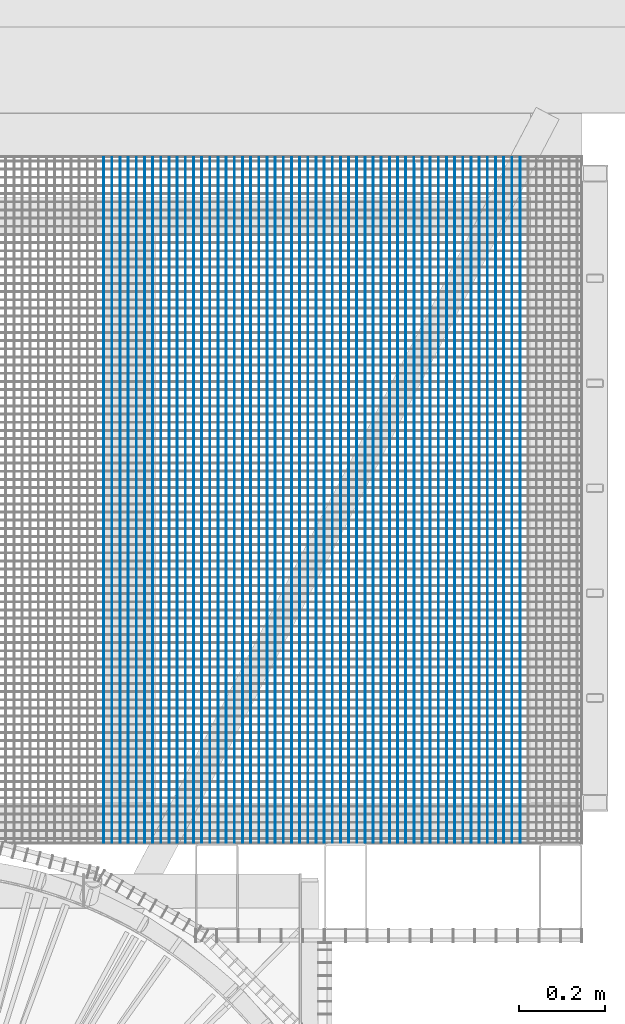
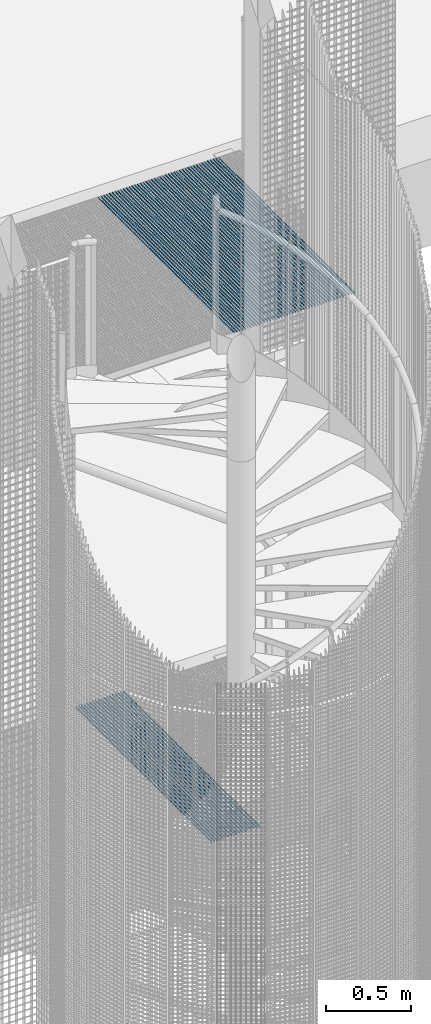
# One storey, part 88 of 1148: 62 beams, 2 elements without a shape of their own.
"""IFC2X3 building model written with IfcOpenShell, lengths in millimetres."""

from ifc_helpers import new_model, si_unit, frame, origin_with_axes, origin_2d_with_axis, place, context, subcontext, project, spatial, rectangle, extrude, material, type_object, element, aggregate, save


model = new_model("IFC2X3")

# Units and contexts
model_context = context("Model", 3, precision=1e-05, world=origin_with_axes())
body_context = subcontext(model_context, "Body", "Model", "MODEL_VIEW")
ifc_project = project(units=[si_unit("LENGTHUNIT", "METRE", prefix="MILLI"), si_unit("AREAUNIT", "SQUARE_METRE"), si_unit("VOLUMEUNIT", "CUBIC_METRE"), si_unit("MASSUNIT", "GRAM", prefix="KILO"), si_unit("TIMEUNIT", "SECOND"), si_unit("PLANEANGLEUNIT", "RADIAN"), si_unit("SOLIDANGLEUNIT", "STERADIAN"), si_unit("THERMODYNAMICTEMPERATUREUNIT", "DEGREE_CELSIUS"), si_unit("LUMINOUSINTENSITYUNIT", "LUMEN")], contexts=[model_context])

# Site, building, storey
site_placement = place(None, origin_with_axes())
site = spatial("IfcSite", under=ifc_project, at=site_placement, Name="Undefined", CompositionType="ELEMENT")
building_placement = place(site_placement, origin_with_axes())
building = spatial("IfcBuilding", under=site, at=building_placement, Name="Undefined", CompositionType="ELEMENT")
storey_placement = place(building_placement, origin_with_axes())
storey = spatial("IfcBuildingStorey", under=building, at=storey_placement, Name="Undefined", CompositionType="ELEMENT", Elevation=0.0)

# Assembly, beams
assembly_1_placement = place(storey_placement, origin_with_axes())
assembly_1 = element("IfcElementAssembly", 1, at=assembly_1_placement, inside=storey, Name="BORDURE", AssemblyPlace="NOTDEFINED", PredefinedType="NOTDEFINED")
ifc_material = material(Name="STEEL/S235JR")
beam_type = type_object("IfcBeamType", Name="PL2*10", PredefinedType="NOTDEFINED")
beam_1_placement = place(assembly_1_placement, frame((589.075424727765, 1102.00521807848, 10085.0), z_axis=(0.0, 0.0, 1.0), x_axis=(-4.50599999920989e-06, 0.999999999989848, 0.0)))
beam_1 = element("IfcBeam", 2, at=beam_1_placement, type_object=beam_type, material=ifc_material, Name="ENTRETOISE", context=body_context, shape_type="SweptSolid", body=[
    extrude(rectangle(XDim=2.0, YDim=10.0, at=origin_2d_with_axis()), frame((1596.0000000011, -1.35186458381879e-18, -7.27595761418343e-12), z_axis=(-1.0, 0.0, 0.0), x_axis=(0.0, -1.0, 0.0)), (0.0, 0.0, 1.0), 1596.0),
])
beam_2_placement = place(assembly_1_placement, frame((608.075424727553, 1102.00531159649, 10085.0), z_axis=(0.0, 0.0, 1.0), x_axis=(-4.50599999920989e-06, 0.999999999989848, 0.0)))
beam_2 = element("IfcBeam", 3, at=beam_2_placement, type_object=beam_type, material=ifc_material, Name="ENTRETOISE", context=body_context, shape_type="SweptSolid", body=[
    extrude(rectangle(XDim=2.0, YDim=10.0, at=origin_2d_with_axis()), frame((1596.0000000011, -1.35186458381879e-18, -7.27595761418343e-12), z_axis=(-1.0, 0.0, 0.0), x_axis=(0.0, -1.0, 0.0)), (0.0, 0.0, 1.0), 1596.0),
])
beam_3_placement = place(assembly_1_placement, frame((627.075424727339, 1102.0054051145, 10085.0), z_axis=(0.0, 0.0, 1.0), x_axis=(-4.50599999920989e-06, 0.999999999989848, 0.0)))
beam_3 = element("IfcBeam", 4, at=beam_3_placement, type_object=beam_type, material=ifc_material, Name="ENTRETOISE", context=body_context, shape_type="SweptSolid", body=[
    extrude(rectangle(XDim=2.0, YDim=10.0, at=origin_2d_with_axis()), frame((1596.0000000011, -1.35186458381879e-18, -7.27595761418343e-12), z_axis=(-1.0, 0.0, 0.0), x_axis=(0.0, -1.0, 0.0)), (0.0, 0.0, 1.0), 1596.0),
])
beam_4_placement = place(assembly_1_placement, frame((646.075424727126, 1102.0054986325, 10085.0), z_axis=(0.0, 0.0, 1.0), x_axis=(-4.50599999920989e-06, 0.999999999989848, 0.0)))
beam_4 = element("IfcBeam", 5, at=beam_4_placement, type_object=beam_type, material=ifc_material, Name="ENTRETOISE", context=body_context, shape_type="SweptSolid", body=[
    extrude(rectangle(XDim=2.0, YDim=10.0, at=origin_2d_with_axis()), frame((1596.0000000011, -1.35186458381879e-18, -7.27595761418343e-12), z_axis=(-1.0, 0.0, 0.0), x_axis=(0.0, -1.0, 0.0)), (0.0, 0.0, 1.0), 1596.0),
])
beam_5_placement = place(assembly_1_placement, frame((665.075424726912, 1102.00559215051, 10085.0), z_axis=(0.0, 0.0, 1.0), x_axis=(-4.50599999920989e-06, 0.999999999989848, 0.0)))
beam_5 = element("IfcBeam", 6, at=beam_5_placement, type_object=beam_type, material=ifc_material, Name="ENTRETOISE", context=body_context, shape_type="SweptSolid", body=[
    extrude(rectangle(XDim=2.0, YDim=10.0, at=origin_2d_with_axis()), frame((1596.0000000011, -1.35186458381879e-18, -7.27595761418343e-12), z_axis=(-1.0, 0.0, 0.0), x_axis=(0.0, -1.0, 0.0)), (0.0, 0.0, 1.0), 1596.0),
])
beam_6_placement = place(assembly_1_placement, frame((684.0754247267, 1102.00568566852, 10085.0), z_axis=(0.0, 0.0, 1.0), x_axis=(-4.50599999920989e-06, 0.999999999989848, 0.0)))
beam_6 = element("IfcBeam", 7, at=beam_6_placement, type_object=beam_type, material=ifc_material, Name="ENTRETOISE", context=body_context, shape_type="SweptSolid", body=[
    extrude(rectangle(XDim=2.0, YDim=10.0, at=origin_2d_with_axis()), frame((1596.0000000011, -1.35186458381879e-18, -7.27595761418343e-12), z_axis=(-1.0, 0.0, 0.0), x_axis=(0.0, -1.0, 0.0)), (0.0, 0.0, 1.0), 1596.0),
])
beam_7_placement = place(assembly_1_placement, frame((703.075424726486, 1102.00577918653, 10085.0), z_axis=(0.0, 0.0, 1.0), x_axis=(-4.50599999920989e-06, 0.999999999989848, 0.0)))
beam_7 = element("IfcBeam", 8, at=beam_7_placement, type_object=beam_type, material=ifc_material, Name="ENTRETOISE", context=body_context, shape_type="SweptSolid", body=[
    extrude(rectangle(XDim=2.0, YDim=10.0, at=origin_2d_with_axis()), frame((1596.0000000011, -1.35186458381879e-18, -7.27595761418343e-12), z_axis=(-1.0, 0.0, 0.0), x_axis=(0.0, -1.0, 0.0)), (0.0, 0.0, 1.0), 1596.0),
])
beam_8_placement = place(assembly_1_placement, frame((722.075424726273, 1102.00587270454, 10085.0), z_axis=(0.0, 0.0, 1.0), x_axis=(-4.50599999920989e-06, 0.999999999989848, 0.0)))
beam_8 = element("IfcBeam", 9, at=beam_8_placement, type_object=beam_type, material=ifc_material, Name="ENTRETOISE", context=body_context, shape_type="SweptSolid", body=[
    extrude(rectangle(XDim=2.0, YDim=10.0, at=origin_2d_with_axis()), frame((1596.0000000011, -1.35186458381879e-18, -7.27595761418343e-12), z_axis=(-1.0, 0.0, 0.0), x_axis=(0.0, -1.0, 0.0)), (0.0, 0.0, 1.0), 1596.0),
])
beam_9_placement = place(assembly_1_placement, frame((741.075424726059, 1102.00596622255, 10085.0), z_axis=(0.0, 0.0, 1.0), x_axis=(-4.50599999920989e-06, 0.999999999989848, 0.0)))
beam_9 = element("IfcBeam", 10, at=beam_9_placement, type_object=beam_type, material=ifc_material, Name="ENTRETOISE", context=body_context, shape_type="SweptSolid", body=[
    extrude(rectangle(XDim=2.0, YDim=10.0, at=origin_2d_with_axis()), frame((1596.0000000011, -1.35186458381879e-18, -7.27595761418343e-12), z_axis=(-1.0, 0.0, 0.0), x_axis=(0.0, -1.0, 0.0)), (0.0, 0.0, 1.0), 1596.0),
])
beam_10_placement = place(assembly_1_placement, frame((760.075424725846, 1102.00605974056, 10085.0), z_axis=(0.0, 0.0, 1.0), x_axis=(-4.50599999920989e-06, 0.999999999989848, 0.0)))
beam_10 = element("IfcBeam", 11, at=beam_10_placement, type_object=beam_type, material=ifc_material, Name="ENTRETOISE", context=body_context, shape_type="SweptSolid", body=[
    extrude(rectangle(XDim=2.0, YDim=10.0, at=origin_2d_with_axis()), frame((1596.0000000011, -1.35186458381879e-18, -7.27595761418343e-12), z_axis=(-1.0, 0.0, 0.0), x_axis=(0.0, -1.0, 0.0)), (0.0, 0.0, 1.0), 1596.0),
])
beam_11_placement = place(assembly_1_placement, frame((779.075424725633, 1102.00615325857, 10085.0), z_axis=(0.0, 0.0, 1.0), x_axis=(-4.50599999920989e-06, 0.999999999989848, 0.0)))
beam_11 = element("IfcBeam", 12, at=beam_11_placement, type_object=beam_type, material=ifc_material, Name="ENTRETOISE", context=body_context, shape_type="SweptSolid", body=[
    extrude(rectangle(XDim=2.0, YDim=10.0, at=origin_2d_with_axis()), frame((1596.0000000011, -1.35186458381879e-18, -7.27595761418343e-12), z_axis=(-1.0, 0.0, 0.0), x_axis=(0.0, -1.0, 0.0)), (0.0, 0.0, 1.0), 1596.0),
])
beam_12_placement = place(assembly_1_placement, frame((798.07542472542, 1102.00624677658, 10085.0), z_axis=(0.0, 0.0, 1.0), x_axis=(-4.50599999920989e-06, 0.999999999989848, 0.0)))
beam_12 = element("IfcBeam", 13, at=beam_12_placement, type_object=beam_type, material=ifc_material, Name="ENTRETOISE", context=body_context, shape_type="SweptSolid", body=[
    extrude(rectangle(XDim=2.0, YDim=10.0, at=origin_2d_with_axis()), frame((1596.0000000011, -1.35186458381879e-18, -7.27595761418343e-12), z_axis=(-1.0, 0.0, 0.0), x_axis=(0.0, -1.0, 0.0)), (0.0, 0.0, 1.0), 1596.0),
])
beam_13_placement = place(assembly_1_placement, frame((817.075424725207, 1102.00634029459, 10085.0), z_axis=(0.0, 0.0, 1.0), x_axis=(-4.50599999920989e-06, 0.999999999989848, 0.0)))
beam_13 = element("IfcBeam", 14, at=beam_13_placement, type_object=beam_type, material=ifc_material, Name="ENTRETOISE", context=body_context, shape_type="SweptSolid", body=[
    extrude(rectangle(XDim=2.0, YDim=10.0, at=origin_2d_with_axis()), frame((1596.0000000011, -1.35186458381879e-18, -7.27595761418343e-12), z_axis=(-1.0, 0.0, 0.0), x_axis=(0.0, -1.0, 0.0)), (0.0, 0.0, 1.0), 1596.0),
])
beam_14_placement = place(assembly_1_placement, frame((836.075424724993, 1102.00643381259, 10085.0), z_axis=(0.0, 0.0, 1.0), x_axis=(-4.50599999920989e-06, 0.999999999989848, 0.0)))
beam_14 = element("IfcBeam", 15, at=beam_14_placement, type_object=beam_type, material=ifc_material, Name="ENTRETOISE", context=body_context, shape_type="SweptSolid", body=[
    extrude(rectangle(XDim=2.0, YDim=10.0, at=origin_2d_with_axis()), frame((1596.0000000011, -1.35186458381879e-18, -7.27595761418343e-12), z_axis=(-1.0, 0.0, 0.0), x_axis=(0.0, -1.0, 0.0)), (0.0, 0.0, 1.0), 1596.0),
])
beam_15_placement = place(assembly_1_placement, frame((855.075424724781, 1102.0065273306, 10085.0), z_axis=(0.0, 0.0, 1.0), x_axis=(-4.50599999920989e-06, 0.999999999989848, 0.0)))
beam_15 = element("IfcBeam", 16, at=beam_15_placement, type_object=beam_type, material=ifc_material, Name="ENTRETOISE", context=body_context, shape_type="SweptSolid", body=[
    extrude(rectangle(XDim=2.0, YDim=10.0, at=origin_2d_with_axis()), frame((1596.0000000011, -1.35186458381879e-18, -7.27595761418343e-12), z_axis=(-1.0, 0.0, 0.0), x_axis=(0.0, -1.0, 0.0)), (0.0, 0.0, 1.0), 1596.0),
])
beam_16_placement = place(assembly_1_placement, frame((874.075424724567, 1102.00662084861, 10085.0), z_axis=(0.0, 0.0, 1.0), x_axis=(-4.50599999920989e-06, 0.999999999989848, 0.0)))
beam_16 = element("IfcBeam", 17, at=beam_16_placement, type_object=beam_type, material=ifc_material, Name="ENTRETOISE", context=body_context, shape_type="SweptSolid", body=[
    extrude(rectangle(XDim=2.0, YDim=10.0, at=origin_2d_with_axis()), frame((1596.0000000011, -1.35186458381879e-18, -7.27595761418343e-12), z_axis=(-1.0, 0.0, 0.0), x_axis=(0.0, -1.0, 0.0)), (0.0, 0.0, 1.0), 1596.0),
])
beam_17_placement = place(assembly_1_placement, frame((893.075424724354, 1102.00671436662, 10085.0), z_axis=(0.0, 0.0, 1.0), x_axis=(-4.50599999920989e-06, 0.999999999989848, 0.0)))
beam_17 = element("IfcBeam", 18, at=beam_17_placement, type_object=beam_type, material=ifc_material, Name="ENTRETOISE", context=body_context, shape_type="SweptSolid", body=[
    extrude(rectangle(XDim=2.0, YDim=10.0, at=origin_2d_with_axis()), frame((1596.0000000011, -1.35186458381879e-18, -7.27595761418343e-12), z_axis=(-1.0, 0.0, 0.0), x_axis=(0.0, -1.0, 0.0)), (0.0, 0.0, 1.0), 1596.0),
])
beam_18_placement = place(assembly_1_placement, frame((912.07542472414, 1102.00680788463, 10085.0), z_axis=(0.0, 0.0, 1.0), x_axis=(-4.50599999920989e-06, 0.999999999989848, 0.0)))
beam_18 = element("IfcBeam", 19, at=beam_18_placement, type_object=beam_type, material=ifc_material, Name="ENTRETOISE", context=body_context, shape_type="SweptSolid", body=[
    extrude(rectangle(XDim=2.0, YDim=10.0, at=origin_2d_with_axis()), frame((1596.0000000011, -1.35186458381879e-18, -7.27595761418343e-12), z_axis=(-1.0, 0.0, 0.0), x_axis=(0.0, -1.0, 0.0)), (0.0, 0.0, 1.0), 1596.0),
])
beam_19_placement = place(assembly_1_placement, frame((931.075424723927, 1102.00690140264, 10085.0), z_axis=(0.0, 0.0, 1.0), x_axis=(-4.50599999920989e-06, 0.999999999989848, 0.0)))
beam_19 = element("IfcBeam", 20, at=beam_19_placement, type_object=beam_type, material=ifc_material, Name="ENTRETOISE", context=body_context, shape_type="SweptSolid", body=[
    extrude(rectangle(XDim=2.0, YDim=10.0, at=origin_2d_with_axis()), frame((1596.0000000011, -1.35186458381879e-18, -7.27595761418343e-12), z_axis=(-1.0, 0.0, 0.0), x_axis=(0.0, -1.0, 0.0)), (0.0, 0.0, 1.0), 1596.0),
])
beam_20_placement = place(assembly_1_placement, frame((950.075424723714, 1102.00699492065, 10085.0), z_axis=(0.0, 0.0, 1.0), x_axis=(-4.50599999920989e-06, 0.999999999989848, 0.0)))
beam_20 = element("IfcBeam", 21, at=beam_20_placement, type_object=beam_type, material=ifc_material, Name="ENTRETOISE", context=body_context, shape_type="SweptSolid", body=[
    extrude(rectangle(XDim=2.0, YDim=10.0, at=origin_2d_with_axis()), frame((1596.0000000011, -1.35186458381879e-18, -7.27595761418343e-12), z_axis=(-1.0, 0.0, 0.0), x_axis=(0.0, -1.0, 0.0)), (0.0, 0.0, 1.0), 1596.0),
])
beam_21_placement = place(assembly_1_placement, frame((969.0754247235, 1102.00708843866, 10085.0), z_axis=(0.0, 0.0, 1.0), x_axis=(-4.50599999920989e-06, 0.999999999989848, 0.0)))
beam_21 = element("IfcBeam", 22, at=beam_21_placement, type_object=beam_type, material=ifc_material, Name="ENTRETOISE", context=body_context, shape_type="SweptSolid", body=[
    extrude(rectangle(XDim=2.0, YDim=10.0, at=origin_2d_with_axis()), frame((1596.0000000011, -1.35186458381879e-18, -7.27595761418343e-12), z_axis=(-1.0, 0.0, 0.0), x_axis=(0.0, -1.0, 0.0)), (0.0, 0.0, 1.0), 1596.0),
])
beam_22_placement = place(assembly_1_placement, frame((988.075424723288, 1102.00718195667, 10085.0), z_axis=(0.0, 0.0, 1.0), x_axis=(-4.50599999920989e-06, 0.999999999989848, 0.0)))
beam_22 = element("IfcBeam", 23, at=beam_22_placement, type_object=beam_type, material=ifc_material, Name="ENTRETOISE", context=body_context, shape_type="SweptSolid", body=[
    extrude(rectangle(XDim=2.0, YDim=10.0, at=origin_2d_with_axis()), frame((1596.0000000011, -1.35186458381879e-18, -7.27595761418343e-12), z_axis=(-1.0, 0.0, 0.0), x_axis=(0.0, -1.0, 0.0)), (0.0, 0.0, 1.0), 1596.0),
])
beam_23_placement = place(assembly_1_placement, frame((1007.07542472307, 1102.00727547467, 10085.0), z_axis=(0.0, 0.0, 1.0), x_axis=(-4.50599999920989e-06, 0.999999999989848, 0.0)))
beam_23 = element("IfcBeam", 24, at=beam_23_placement, type_object=beam_type, material=ifc_material, Name="ENTRETOISE", context=body_context, shape_type="SweptSolid", body=[
    extrude(rectangle(XDim=2.0, YDim=10.0, at=origin_2d_with_axis()), frame((1596.0000000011, -1.35186458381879e-18, -7.27595761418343e-12), z_axis=(-1.0, 0.0, 0.0), x_axis=(0.0, -1.0, 0.0)), (0.0, 0.0, 1.0), 1596.0),
])
beam_24_placement = place(assembly_1_placement, frame((1026.07542472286, 1102.00736899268, 10085.0), z_axis=(0.0, 0.0, 1.0), x_axis=(-4.50599999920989e-06, 0.999999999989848, 0.0)))
beam_24 = element("IfcBeam", 25, at=beam_24_placement, type_object=beam_type, material=ifc_material, Name="ENTRETOISE", context=body_context, shape_type="SweptSolid", body=[
    extrude(rectangle(XDim=2.0, YDim=10.0, at=origin_2d_with_axis()), frame((1596.0000000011, -1.35186458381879e-18, -7.27595761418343e-12), z_axis=(-1.0, 0.0, 0.0), x_axis=(0.0, -1.0, 0.0)), (0.0, 0.0, 1.0), 1596.0),
])
beam_25_placement = place(assembly_1_placement, frame((1045.07542472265, 1102.00746251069, 10085.0), z_axis=(0.0, 0.0, 1.0), x_axis=(-4.50599999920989e-06, 0.999999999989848, 0.0)))
beam_25 = element("IfcBeam", 26, at=beam_25_placement, type_object=beam_type, material=ifc_material, Name="ENTRETOISE", context=body_context, shape_type="SweptSolid", body=[
    extrude(rectangle(XDim=2.0, YDim=10.0, at=origin_2d_with_axis()), frame((1596.0000000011, -1.35186458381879e-18, -7.27595761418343e-12), z_axis=(-1.0, 0.0, 0.0), x_axis=(0.0, -1.0, 0.0)), (0.0, 0.0, 1.0), 1596.0),
])
beam_26_placement = place(assembly_1_placement, frame((1064.07542472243, 1102.0075560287, 10085.0), z_axis=(0.0, 0.0, 1.0), x_axis=(-4.50599999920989e-06, 0.999999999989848, 0.0)))
beam_26 = element("IfcBeam", 27, at=beam_26_placement, type_object=beam_type, material=ifc_material, Name="ENTRETOISE", context=body_context, shape_type="SweptSolid", body=[
    extrude(rectangle(XDim=2.0, YDim=10.0, at=origin_2d_with_axis()), frame((1596.0000000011, -1.35186458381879e-18, -7.27595761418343e-12), z_axis=(-1.0, 0.0, 0.0), x_axis=(0.0, -1.0, 0.0)), (0.0, 0.0, 1.0), 1596.0),
])
beam_27_placement = place(assembly_1_placement, frame((1083.07542472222, 1102.00764954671, 10085.0), z_axis=(0.0, 0.0, 1.0), x_axis=(-4.50599999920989e-06, 0.999999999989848, 0.0)))
beam_27 = element("IfcBeam", 28, at=beam_27_placement, type_object=beam_type, material=ifc_material, Name="ENTRETOISE", context=body_context, shape_type="SweptSolid", body=[
    extrude(rectangle(XDim=2.0, YDim=10.0, at=origin_2d_with_axis()), frame((1596.0000000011, -1.35186458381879e-18, -7.27595761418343e-12), z_axis=(-1.0, 0.0, 0.0), x_axis=(0.0, -1.0, 0.0)), (0.0, 0.0, 1.0), 1596.0),
])
beam_28_placement = place(assembly_1_placement, frame((1102.07542472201, 1102.00774306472, 10085.0), z_axis=(0.0, 0.0, 1.0), x_axis=(-4.50599999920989e-06, 0.999999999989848, 0.0)))
beam_28 = element("IfcBeam", 29, at=beam_28_placement, type_object=beam_type, material=ifc_material, Name="ENTRETOISE", context=body_context, shape_type="SweptSolid", body=[
    extrude(rectangle(XDim=2.0, YDim=10.0, at=origin_2d_with_axis()), frame((1596.0000000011, -1.35186458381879e-18, -7.27595761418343e-12), z_axis=(-1.0, 0.0, 0.0), x_axis=(0.0, -1.0, 0.0)), (0.0, 0.0, 1.0), 1596.0),
])
beam_29_placement = place(assembly_1_placement, frame((1121.07542472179, 1102.00783658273, 10085.0), z_axis=(0.0, 0.0, 1.0), x_axis=(-4.50599999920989e-06, 0.999999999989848, 0.0)))
beam_29 = element("IfcBeam", 30, at=beam_29_placement, type_object=beam_type, material=ifc_material, Name="ENTRETOISE", context=body_context, shape_type="SweptSolid", body=[
    extrude(rectangle(XDim=2.0, YDim=10.0, at=origin_2d_with_axis()), frame((1596.0000000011, -1.35186458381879e-18, -7.27595761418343e-12), z_axis=(-1.0, 0.0, 0.0), x_axis=(0.0, -1.0, 0.0)), (0.0, 0.0, 1.0), 1596.0),
])
beam_30_placement = place(assembly_1_placement, frame((1140.07542472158, 1102.00793010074, 10085.0), z_axis=(0.0, 0.0, 1.0), x_axis=(-4.50599999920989e-06, 0.999999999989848, 0.0)))
beam_30 = element("IfcBeam", 31, at=beam_30_placement, type_object=beam_type, material=ifc_material, Name="ENTRETOISE", context=body_context, shape_type="SweptSolid", body=[
    extrude(rectangle(XDim=2.0, YDim=10.0, at=origin_2d_with_axis()), frame((1596.0000000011, -1.35186458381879e-18, -7.27595761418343e-12), z_axis=(-1.0, 0.0, 0.0), x_axis=(0.0, -1.0, 0.0)), (0.0, 0.0, 1.0), 1596.0),
])
beam_31_placement = place(assembly_1_placement, frame((1159.07542472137, 1102.00802361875, 10085.0), z_axis=(0.0, 0.0, 1.0), x_axis=(-4.50599999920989e-06, 0.999999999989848, 0.0)))
beam_31 = element("IfcBeam", 32, at=beam_31_placement, type_object=beam_type, material=ifc_material, Name="ENTRETOISE", context=body_context, shape_type="SweptSolid", body=[
    extrude(rectangle(XDim=2.0, YDim=10.0, at=origin_2d_with_axis()), frame((1596.0000000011, -1.35186458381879e-18, -7.27595761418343e-12), z_axis=(-1.0, 0.0, 0.0), x_axis=(0.0, -1.0, 0.0)), (0.0, 0.0, 1.0), 1596.0),
])
beam_32_placement = place(assembly_1_placement, frame((1178.07542472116, 1102.00811713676, 10085.0), z_axis=(0.0, 0.0, 1.0), x_axis=(-4.50599999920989e-06, 0.999999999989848, 0.0)))
beam_32 = element("IfcBeam", 33, at=beam_32_placement, type_object=beam_type, material=ifc_material, Name="ENTRETOISE", context=body_context, shape_type="SweptSolid", body=[
    extrude(rectangle(XDim=2.0, YDim=10.0, at=origin_2d_with_axis()), frame((1596.0000000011, -1.35186458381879e-18, -7.27595761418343e-12), z_axis=(-1.0, 0.0, 0.0), x_axis=(0.0, -1.0, 0.0)), (0.0, 0.0, 1.0), 1596.0),
])
beam_33_placement = place(assembly_1_placement, frame((1197.07542472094, 1102.00821065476, 10085.0), z_axis=(0.0, 0.0, 1.0), x_axis=(-4.50599999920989e-06, 0.999999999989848, 0.0)))
beam_33 = element("IfcBeam", 34, at=beam_33_placement, type_object=beam_type, material=ifc_material, Name="ENTRETOISE", context=body_context, shape_type="SweptSolid", body=[
    extrude(rectangle(XDim=2.0, YDim=10.0, at=origin_2d_with_axis()), frame((1596.0000000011, -1.35186458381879e-18, -7.27595761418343e-12), z_axis=(-1.0, 0.0, 0.0), x_axis=(0.0, -1.0, 0.0)), (0.0, 0.0, 1.0), 1596.0),
])
beam_34_placement = place(assembly_1_placement, frame((1216.07542472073, 1102.00830417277, 10085.0), z_axis=(0.0, 0.0, 1.0), x_axis=(-4.50599999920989e-06, 0.999999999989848, 0.0)))
beam_34 = element("IfcBeam", 35, at=beam_34_placement, type_object=beam_type, material=ifc_material, Name="ENTRETOISE", context=body_context, shape_type="SweptSolid", body=[
    extrude(rectangle(XDim=2.0, YDim=10.0, at=origin_2d_with_axis()), frame((1596.0000000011, -1.35186458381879e-18, -7.27595761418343e-12), z_axis=(-1.0, 0.0, 0.0), x_axis=(0.0, -1.0, 0.0)), (0.0, 0.0, 1.0), 1596.0),
])
beam_35_placement = place(assembly_1_placement, frame((1235.07542472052, 1102.00839769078, 10085.0), z_axis=(0.0, 0.0, 1.0), x_axis=(-4.50599999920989e-06, 0.999999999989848, 0.0)))
beam_35 = element("IfcBeam", 36, at=beam_35_placement, type_object=beam_type, material=ifc_material, Name="ENTRETOISE", context=body_context, shape_type="SweptSolid", body=[
    extrude(rectangle(XDim=2.0, YDim=10.0, at=origin_2d_with_axis()), frame((1596.0000000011, -1.35186458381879e-18, -7.27595761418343e-12), z_axis=(-1.0, 0.0, 0.0), x_axis=(0.0, -1.0, 0.0)), (0.0, 0.0, 1.0), 1596.0),
])
beam_36_placement = place(assembly_1_placement, frame((1254.0754247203, 1102.00849120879, 10085.0), z_axis=(0.0, 0.0, 1.0), x_axis=(-4.50599999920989e-06, 0.999999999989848, 0.0)))
beam_36 = element("IfcBeam", 37, at=beam_36_placement, type_object=beam_type, material=ifc_material, Name="ENTRETOISE", context=body_context, shape_type="SweptSolid", body=[
    extrude(rectangle(XDim=2.0, YDim=10.0, at=origin_2d_with_axis()), frame((1596.0000000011, -1.35186458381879e-18, -7.27595761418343e-12), z_axis=(-1.0, 0.0, 0.0), x_axis=(0.0, -1.0, 0.0)), (0.0, 0.0, 1.0), 1596.0),
])
beam_37_placement = place(assembly_1_placement, frame((1273.07542472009, 1102.0085847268, 10085.0), z_axis=(0.0, 0.0, 1.0), x_axis=(-4.50599999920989e-06, 0.999999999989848, 0.0)))
beam_37 = element("IfcBeam", 38, at=beam_37_placement, type_object=beam_type, material=ifc_material, Name="ENTRETOISE", context=body_context, shape_type="SweptSolid", body=[
    extrude(rectangle(XDim=2.0, YDim=10.0, at=origin_2d_with_axis()), frame((1596.0000000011, -1.35186458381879e-18, -7.27595761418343e-12), z_axis=(-1.0, 0.0, 0.0), x_axis=(0.0, -1.0, 0.0)), (0.0, 0.0, 1.0), 1596.0),
])
beam_38_placement = place(assembly_1_placement, frame((1292.07542471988, 1102.00867824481, 10085.0), z_axis=(0.0, 0.0, 1.0), x_axis=(-4.50599999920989e-06, 0.999999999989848, 0.0)))
beam_38 = element("IfcBeam", 39, at=beam_38_placement, type_object=beam_type, material=ifc_material, Name="ENTRETOISE", context=body_context, shape_type="SweptSolid", body=[
    extrude(rectangle(XDim=2.0, YDim=10.0, at=origin_2d_with_axis()), frame((1596.0000000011, -1.35186458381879e-18, -7.27595761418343e-12), z_axis=(-1.0, 0.0, 0.0), x_axis=(0.0, -1.0, 0.0)), (0.0, 0.0, 1.0), 1596.0),
])
beam_39_placement = place(assembly_1_placement, frame((1311.07542471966, 1102.00877176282, 10085.0), z_axis=(0.0, 0.0, 1.0), x_axis=(-4.50599999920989e-06, 0.999999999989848, 0.0)))
beam_39 = element("IfcBeam", 40, at=beam_39_placement, type_object=beam_type, material=ifc_material, Name="ENTRETOISE", context=body_context, shape_type="SweptSolid", body=[
    extrude(rectangle(XDim=2.0, YDim=10.0, at=origin_2d_with_axis()), frame((1596.0000000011, -1.35186458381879e-18, -7.27595761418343e-12), z_axis=(-1.0, 0.0, 0.0), x_axis=(0.0, -1.0, 0.0)), (0.0, 0.0, 1.0), 1596.0),
])
beam_40_placement = place(assembly_1_placement, frame((1330.07542471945, 1102.00886528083, 10085.0), z_axis=(0.0, 0.0, 1.0), x_axis=(-4.50599999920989e-06, 0.999999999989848, 0.0)))
beam_40 = element("IfcBeam", 41, at=beam_40_placement, type_object=beam_type, material=ifc_material, Name="ENTRETOISE", context=body_context, shape_type="SweptSolid", body=[
    extrude(rectangle(XDim=2.0, YDim=10.0, at=origin_2d_with_axis()), frame((1596.0000000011, -1.35186458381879e-18, -7.27595761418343e-12), z_axis=(-1.0, 0.0, 0.0), x_axis=(0.0, -1.0, 0.0)), (0.0, 0.0, 1.0), 1596.0),
])
beam_41_placement = place(assembly_1_placement, frame((1349.07542471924, 1102.00895879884, 10085.0), z_axis=(0.0, 0.0, 1.0), x_axis=(-4.50599999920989e-06, 0.999999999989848, 0.0)))
beam_41 = element("IfcBeam", 42, at=beam_41_placement, type_object=beam_type, material=ifc_material, Name="ENTRETOISE", context=body_context, shape_type="SweptSolid", body=[
    extrude(rectangle(XDim=2.0, YDim=10.0, at=origin_2d_with_axis()), frame((1596.0000000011, -1.35186458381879e-18, -7.27595761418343e-12), z_axis=(-1.0, 0.0, 0.0), x_axis=(0.0, -1.0, 0.0)), (0.0, 0.0, 1.0), 1596.0),
])
beam_42_placement = place(assembly_1_placement, frame((1368.07542471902, 1102.00905231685, 10085.0), z_axis=(0.0, 0.0, 1.0), x_axis=(-4.50599999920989e-06, 0.999999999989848, 0.0)))
beam_42 = element("IfcBeam", 43, at=beam_42_placement, type_object=beam_type, material=ifc_material, Name="ENTRETOISE", context=body_context, shape_type="SweptSolid", body=[
    extrude(rectangle(XDim=2.0, YDim=10.0, at=origin_2d_with_axis()), frame((1596.0000000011, -1.35186458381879e-18, -7.27595761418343e-12), z_axis=(-1.0, 0.0, 0.0), x_axis=(0.0, -1.0, 0.0)), (0.0, 0.0, 1.0), 1596.0),
])
beam_43_placement = place(assembly_1_placement, frame((1387.07542471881, 1102.00914583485, 10085.0), z_axis=(0.0, 0.0, 1.0), x_axis=(-4.50599999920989e-06, 0.999999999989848, 0.0)))
beam_43 = element("IfcBeam", 44, at=beam_43_placement, type_object=beam_type, material=ifc_material, Name="ENTRETOISE", context=body_context, shape_type="SweptSolid", body=[
    extrude(rectangle(XDim=2.0, YDim=10.0, at=origin_2d_with_axis()), frame((1596.0000000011, -1.35186458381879e-18, -7.27595761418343e-12), z_axis=(-1.0, 0.0, 0.0), x_axis=(0.0, -1.0, 0.0)), (0.0, 0.0, 1.0), 1596.0),
])
beam_44_placement = place(assembly_1_placement, frame((1406.0754247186, 1102.00923935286, 10085.0), z_axis=(0.0, 0.0, 1.0), x_axis=(-4.50599999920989e-06, 0.999999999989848, 0.0)))
beam_44 = element("IfcBeam", 45, at=beam_44_placement, type_object=beam_type, material=ifc_material, Name="ENTRETOISE", context=body_context, shape_type="SweptSolid", body=[
    extrude(rectangle(XDim=2.0, YDim=10.0, at=origin_2d_with_axis()), frame((1596.0000000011, -1.35186458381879e-18, -7.27595761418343e-12), z_axis=(-1.0, 0.0, 0.0), x_axis=(0.0, -1.0, 0.0)), (0.0, 0.0, 1.0), 1596.0),
])
aggregate(assembly_1, [beam_1, beam_2, beam_3, beam_4, beam_5, beam_6, beam_7, beam_8, beam_9, beam_10, beam_11, beam_12, beam_13, beam_14, beam_15, beam_16, beam_17, beam_18, beam_19, beam_20, beam_21, beam_22, beam_23, beam_24, beam_25, beam_26, beam_27, beam_28, beam_29, beam_30, beam_31, beam_32, beam_33, beam_34, beam_35, beam_36, beam_37, beam_38, beam_39, beam_40, beam_41, beam_42, beam_43, beam_44])

assembly_2_placement = place(storey_placement, origin_with_axes())
assembly_2 = element("IfcElementAssembly", 46, at=assembly_2_placement, inside=storey, Name="BORDURE", AssemblyPlace="NOTDEFINED", PredefinedType="NOTDEFINED")
beam_45_placement = place(assembly_2_placement, frame((437.075424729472, 1102.00446993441, 6485.0), z_axis=(0.0, 0.0, 1.0), x_axis=(-4.50599999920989e-06, 0.999999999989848, 0.0)))
beam_45 = element("IfcBeam", 47, at=beam_45_placement, type_object=beam_type, material=ifc_material, Name="ENTRETOISE", context=body_context, shape_type="SweptSolid", body=[
    extrude(rectangle(XDim=2.0, YDim=10.0, at=origin_2d_with_axis()), frame((1596.0000000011, -1.35186458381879e-18, -7.27595761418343e-12), z_axis=(-1.0, 0.0, 0.0), x_axis=(0.0, -1.0, 0.0)), (0.0, 0.0, 1.0), 1596.0),
])
beam_46_placement = place(assembly_2_placement, frame((456.075424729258, 1102.00456345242, 6485.0), z_axis=(0.0, 0.0, 1.0), x_axis=(-4.50599999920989e-06, 0.999999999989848, 0.0)))
beam_46 = element("IfcBeam", 48, at=beam_46_placement, type_object=beam_type, material=ifc_material, Name="ENTRETOISE", context=body_context, shape_type="SweptSolid", body=[
    extrude(rectangle(XDim=2.0, YDim=10.0, at=origin_2d_with_axis()), frame((1596.0000000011, -1.35186458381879e-18, -7.27595761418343e-12), z_axis=(-1.0, 0.0, 0.0), x_axis=(0.0, -1.0, 0.0)), (0.0, 0.0, 1.0), 1596.0),
])
beam_47_placement = place(assembly_2_placement, frame((475.075424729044, 1102.00465697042, 6485.0), z_axis=(0.0, 0.0, 1.0), x_axis=(-4.50599999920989e-06, 0.999999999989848, 0.0)))
beam_47 = element("IfcBeam", 49, at=beam_47_placement, type_object=beam_type, material=ifc_material, Name="ENTRETOISE", context=body_context, shape_type="SweptSolid", body=[
    extrude(rectangle(XDim=2.0, YDim=10.0, at=origin_2d_with_axis()), frame((1596.0000000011, -1.35186458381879e-18, -7.27595761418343e-12), z_axis=(-1.0, 0.0, 0.0), x_axis=(0.0, -1.0, 0.0)), (0.0, 0.0, 1.0), 1596.0),
])
beam_48_placement = place(assembly_2_placement, frame((494.075424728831, 1102.00475048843, 6485.0), z_axis=(0.0, 0.0, 1.0), x_axis=(-4.50599999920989e-06, 0.999999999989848, 0.0)))
beam_48 = element("IfcBeam", 50, at=beam_48_placement, type_object=beam_type, material=ifc_material, Name="ENTRETOISE", context=body_context, shape_type="SweptSolid", body=[
    extrude(rectangle(XDim=2.0, YDim=10.0, at=origin_2d_with_axis()), frame((1596.0000000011, -1.35186458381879e-18, -7.27595761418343e-12), z_axis=(-1.0, 0.0, 0.0), x_axis=(0.0, -1.0, 0.0)), (0.0, 0.0, 1.0), 1596.0),
])
beam_49_placement = place(assembly_2_placement, frame((513.075424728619, 1102.00484400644, 6485.0), z_axis=(0.0, 0.0, 1.0), x_axis=(-4.50599999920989e-06, 0.999999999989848, 0.0)))
beam_49 = element("IfcBeam", 51, at=beam_49_placement, type_object=beam_type, material=ifc_material, Name="ENTRETOISE", context=body_context, shape_type="SweptSolid", body=[
    extrude(rectangle(XDim=2.0, YDim=10.0, at=origin_2d_with_axis()), frame((1596.0000000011, -1.35186458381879e-18, -7.27595761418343e-12), z_axis=(-1.0, 0.0, 0.0), x_axis=(0.0, -1.0, 0.0)), (0.0, 0.0, 1.0), 1596.0),
])
beam_50_placement = place(assembly_2_placement, frame((532.075424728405, 1102.00493752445, 6485.0), z_axis=(0.0, 0.0, 1.0), x_axis=(-4.50599999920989e-06, 0.999999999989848, 0.0)))
beam_50 = element("IfcBeam", 52, at=beam_50_placement, type_object=beam_type, material=ifc_material, Name="ENTRETOISE", context=body_context, shape_type="SweptSolid", body=[
    extrude(rectangle(XDim=2.0, YDim=10.0, at=origin_2d_with_axis()), frame((1596.0000000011, -1.35186458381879e-18, -7.27595761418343e-12), z_axis=(-1.0, 0.0, 0.0), x_axis=(0.0, -1.0, 0.0)), (0.0, 0.0, 1.0), 1596.0),
])
beam_51_placement = place(assembly_2_placement, frame((551.075424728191, 1102.00503104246, 6485.0), z_axis=(0.0, 0.0, 1.0), x_axis=(-4.50599999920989e-06, 0.999999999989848, 0.0)))
beam_51 = element("IfcBeam", 53, at=beam_51_placement, type_object=beam_type, material=ifc_material, Name="ENTRETOISE", context=body_context, shape_type="SweptSolid", body=[
    extrude(rectangle(XDim=2.0, YDim=10.0, at=origin_2d_with_axis()), frame((1596.0000000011, -1.35186458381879e-18, -7.27595761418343e-12), z_axis=(-1.0, 0.0, 0.0), x_axis=(0.0, -1.0, 0.0)), (0.0, 0.0, 1.0), 1596.0),
])
beam_52_placement = place(assembly_2_placement, frame((570.075424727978, 1102.00512456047, 6485.0), z_axis=(0.0, 0.0, 1.0), x_axis=(-4.50599999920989e-06, 0.999999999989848, 0.0)))
beam_52 = element("IfcBeam", 54, at=beam_52_placement, type_object=beam_type, material=ifc_material, Name="ENTRETOISE", context=body_context, shape_type="SweptSolid", body=[
    extrude(rectangle(XDim=2.0, YDim=10.0, at=origin_2d_with_axis()), frame((1596.0000000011, -1.35186458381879e-18, -7.27595761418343e-12), z_axis=(-1.0, 0.0, 0.0), x_axis=(0.0, -1.0, 0.0)), (0.0, 0.0, 1.0), 1596.0),
])
beam_53_placement = place(assembly_2_placement, frame((589.075424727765, 1102.00521807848, 6485.0), z_axis=(0.0, 0.0, 1.0), x_axis=(-4.50599999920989e-06, 0.999999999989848, 0.0)))
beam_53 = element("IfcBeam", 55, at=beam_53_placement, type_object=beam_type, material=ifc_material, Name="ENTRETOISE", context=body_context, shape_type="SweptSolid", body=[
    extrude(rectangle(XDim=2.0, YDim=10.0, at=origin_2d_with_axis()), frame((1596.0000000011, -1.35186458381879e-18, -7.27595761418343e-12), z_axis=(-1.0, 0.0, 0.0), x_axis=(0.0, -1.0, 0.0)), (0.0, 0.0, 1.0), 1596.0),
])
beam_54_placement = place(assembly_2_placement, frame((608.075424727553, 1102.00531159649, 6485.0), z_axis=(0.0, 0.0, 1.0), x_axis=(-4.50599999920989e-06, 0.999999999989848, 0.0)))
beam_54 = element("IfcBeam", 56, at=beam_54_placement, type_object=beam_type, material=ifc_material, Name="ENTRETOISE", context=body_context, shape_type="SweptSolid", body=[
    extrude(rectangle(XDim=2.0, YDim=10.0, at=origin_2d_with_axis()), frame((1596.0000000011, -1.35186458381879e-18, -7.27595761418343e-12), z_axis=(-1.0, 0.0, 0.0), x_axis=(0.0, -1.0, 0.0)), (0.0, 0.0, 1.0), 1596.0),
])
beam_55_placement = place(assembly_2_placement, frame((627.075424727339, 1102.0054051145, 6485.0), z_axis=(0.0, 0.0, 1.0), x_axis=(-4.50599999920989e-06, 0.999999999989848, 0.0)))
beam_55 = element("IfcBeam", 57, at=beam_55_placement, type_object=beam_type, material=ifc_material, Name="ENTRETOISE", context=body_context, shape_type="SweptSolid", body=[
    extrude(rectangle(XDim=2.0, YDim=10.0, at=origin_2d_with_axis()), frame((1596.0000000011, -1.35186458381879e-18, -7.27595761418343e-12), z_axis=(-1.0, 0.0, 0.0), x_axis=(0.0, -1.0, 0.0)), (0.0, 0.0, 1.0), 1596.0),
])
beam_56_placement = place(assembly_2_placement, frame((646.075424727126, 1102.0054986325, 6485.0), z_axis=(0.0, 0.0, 1.0), x_axis=(-4.50599999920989e-06, 0.999999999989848, 0.0)))
beam_56 = element("IfcBeam", 58, at=beam_56_placement, type_object=beam_type, material=ifc_material, Name="ENTRETOISE", context=body_context, shape_type="SweptSolid", body=[
    extrude(rectangle(XDim=2.0, YDim=10.0, at=origin_2d_with_axis()), frame((1596.0000000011, -1.35186458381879e-18, -7.27595761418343e-12), z_axis=(-1.0, 0.0, 0.0), x_axis=(0.0, -1.0, 0.0)), (0.0, 0.0, 1.0), 1596.0),
])
beam_57_placement = place(assembly_2_placement, frame((665.075424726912, 1102.00559215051, 6485.0), z_axis=(0.0, 0.0, 1.0), x_axis=(-4.50599999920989e-06, 0.999999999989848, 0.0)))
beam_57 = element("IfcBeam", 59, at=beam_57_placement, type_object=beam_type, material=ifc_material, Name="ENTRETOISE", context=body_context, shape_type="SweptSolid", body=[
    extrude(rectangle(XDim=2.0, YDim=10.0, at=origin_2d_with_axis()), frame((1596.0000000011, -1.35186458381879e-18, -7.27595761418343e-12), z_axis=(-1.0, 0.0, 0.0), x_axis=(0.0, -1.0, 0.0)), (0.0, 0.0, 1.0), 1596.0),
])
beam_58_placement = place(assembly_2_placement, frame((684.075424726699, 1102.00568566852, 6485.0), z_axis=(0.0, 0.0, 1.0), x_axis=(-4.50599999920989e-06, 0.999999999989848, 0.0)))
beam_58 = element("IfcBeam", 60, at=beam_58_placement, type_object=beam_type, material=ifc_material, Name="ENTRETOISE", context=body_context, shape_type="SweptSolid", body=[
    extrude(rectangle(XDim=2.0, YDim=10.0, at=origin_2d_with_axis()), frame((1596.0000000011, -1.35186458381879e-18, -7.27595761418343e-12), z_axis=(-1.0, 0.0, 0.0), x_axis=(0.0, -1.0, 0.0)), (0.0, 0.0, 1.0), 1596.0),
])
beam_59_placement = place(assembly_2_placement, frame((703.075424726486, 1102.00577918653, 6485.0), z_axis=(0.0, 0.0, 1.0), x_axis=(-4.50599999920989e-06, 0.999999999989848, 0.0)))
beam_59 = element("IfcBeam", 61, at=beam_59_placement, type_object=beam_type, material=ifc_material, Name="ENTRETOISE", context=body_context, shape_type="SweptSolid", body=[
    extrude(rectangle(XDim=2.0, YDim=10.0, at=origin_2d_with_axis()), frame((1596.0000000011, -1.35186458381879e-18, -7.27595761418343e-12), z_axis=(-1.0, 0.0, 0.0), x_axis=(0.0, -1.0, 0.0)), (0.0, 0.0, 1.0), 1596.0),
])
beam_60_placement = place(assembly_2_placement, frame((722.075424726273, 1102.00587270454, 6485.0), z_axis=(0.0, 0.0, 1.0), x_axis=(-4.50599999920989e-06, 0.999999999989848, 0.0)))
beam_60 = element("IfcBeam", 62, at=beam_60_placement, type_object=beam_type, material=ifc_material, Name="ENTRETOISE", context=body_context, shape_type="SweptSolid", body=[
    extrude(rectangle(XDim=2.0, YDim=10.0, at=origin_2d_with_axis()), frame((1596.0000000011, -1.35186458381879e-18, -7.27595761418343e-12), z_axis=(-1.0, 0.0, 0.0), x_axis=(0.0, -1.0, 0.0)), (0.0, 0.0, 1.0), 1596.0),
])
beam_61_placement = place(assembly_2_placement, frame((741.075424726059, 1102.00596622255, 6485.0), z_axis=(0.0, 0.0, 1.0), x_axis=(-4.50599999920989e-06, 0.999999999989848, 0.0)))
beam_61 = element("IfcBeam", 63, at=beam_61_placement, type_object=beam_type, material=ifc_material, Name="ENTRETOISE", context=body_context, shape_type="SweptSolid", body=[
    extrude(rectangle(XDim=2.0, YDim=10.0, at=origin_2d_with_axis()), frame((1596.0000000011, -1.35186458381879e-18, -7.27595761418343e-12), z_axis=(-1.0, 0.0, 0.0), x_axis=(0.0, -1.0, 0.0)), (0.0, 0.0, 1.0), 1596.0),
])
beam_62_placement = place(assembly_2_placement, frame((760.075424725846, 1102.00605974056, 6485.0), z_axis=(0.0, 0.0, 1.0), x_axis=(-4.50599999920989e-06, 0.999999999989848, 0.0)))
beam_62 = element("IfcBeam", 64, at=beam_62_placement, type_object=beam_type, material=ifc_material, Name="ENTRETOISE", context=body_context, shape_type="SweptSolid", body=[
    extrude(rectangle(XDim=2.0, YDim=10.0, at=origin_2d_with_axis()), frame((1596.0000000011, -1.35186458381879e-18, -7.27595761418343e-12), z_axis=(-1.0, 0.0, 0.0), x_axis=(0.0, -1.0, 0.0)), (0.0, 0.0, 1.0), 1596.0),
])
aggregate(assembly_2, [beam_45, beam_46, beam_47, beam_48, beam_49, beam_50, beam_51, beam_52, beam_53, beam_54, beam_55, beam_56, beam_57, beam_58, beam_59, beam_60, beam_61, beam_62])

save(model, "model.ifc")
